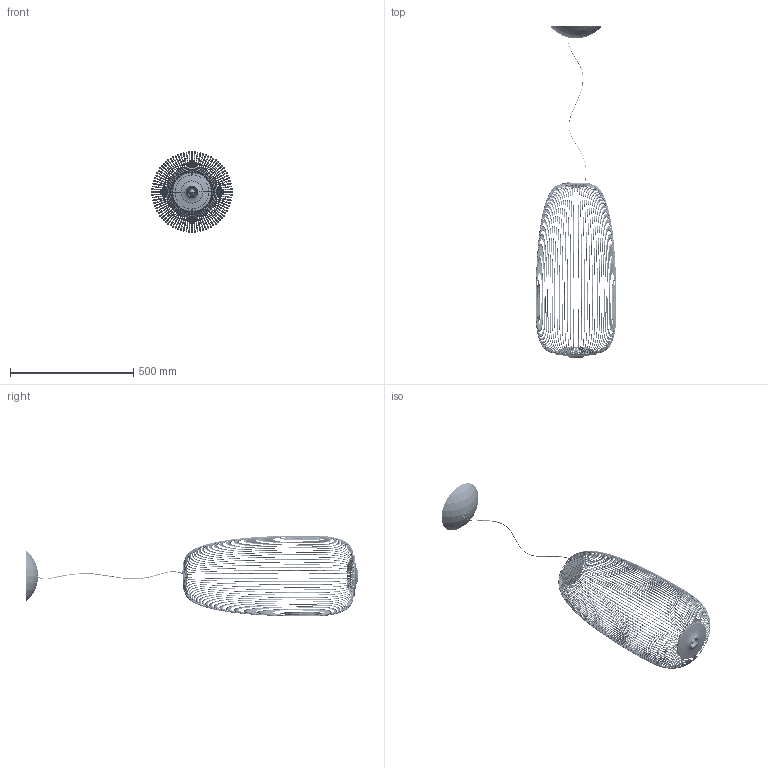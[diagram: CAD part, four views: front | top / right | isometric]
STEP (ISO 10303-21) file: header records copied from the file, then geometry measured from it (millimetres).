
FILE_DESCRIPTION (( 'STEP AP203' ), '1' );
FILE_NAME ('264_1_S_LD_3D_ok.STEP', '2021-03-30T10:24:50', ( '' ), ( '' ), 'SwSTEP 2.0', 'SolidWorks 2021', '' );
FILE_SCHEMA (( 'CONFIG_CONTROL_DESIGN' ));
Length unit declared in the file: millimetre
Products named in the file (1): 264_1_S_LD_3D_ok
Bounding box: 326.48 x 1344.86 x 326.48 mm (x, y, z)
Surface area: 705495.2 mm2 (no closed solid volume)
Topology: 0 solids, 130 shells, 675 faces, 3494 edges, 2785 vertices
Faces by surface type: bspline 332, plane 174, cone 86, torus 43, cylinder 34, sphere 6
Entity records: 143118 total; most frequent: CARTESIAN_POINT 120487, ORIENTED_EDGE 4590, DIRECTION 3682, EDGE_CURVE 3492, VERTEX_POINT 2785, AXIS2_PLACEMENT_3D 1610, B_SPLINE_CURVE_WITH_KNOTS 1588, CIRCLE 1266
